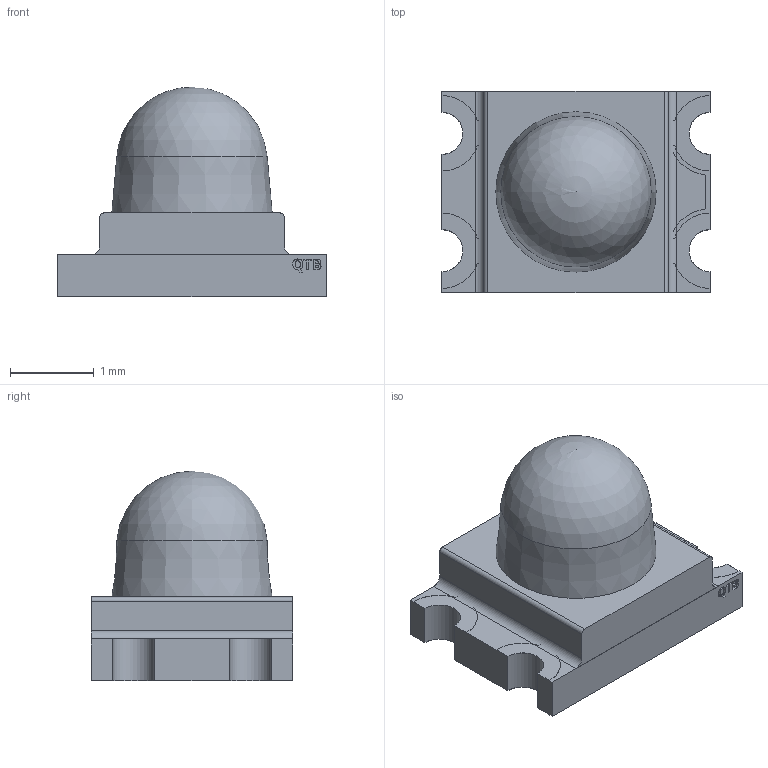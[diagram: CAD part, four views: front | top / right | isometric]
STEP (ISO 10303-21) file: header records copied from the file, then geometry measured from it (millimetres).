
FILE_DESCRIPTION(/* description */ (''),/* implementation_level */ '2;1');
FILE_NAME(/* name */ '5fab0ebd4170af0f33aaea00',/* time_stamp */ '2020-11-10T22:05:50+00:00',/* author */ (''),/* organization */ (''),/* preprocessor_version */ 'ST-DEVELOPER v16.7',/* originating_system */ $,/* authorisation */ $);
FILE_SCHEMA (('AUTOMOTIVE_DESIGN {1 0 10303 214 3 1 1}'));
Length unit declared in the file: metre
Products named in the file (8): QBLP653 (Bi-Tri Color); Part 5; Part 4; Part 1; Part 7; Part 2; Part 6; Part 3
Assembly tree (7 placements, depth 2):
  QBLP653 (Bi-Tri Color)
    Part 5
    Part 4
    Part 1
    Part 7
    Part 2
    Part 6
    Part 3
Bounding box: 3.2 x 2.4 x 2.5 mm (x, y, z)
Volume: 9.4 mm3; surface area: 50.9 mm2
Topology: 7 solids, 7 shells, 198 faces, 531 edges, 354 vertices
Faces by surface type: plane 131, cylinder 36, bspline 29, sphere 1, cone 1
Entity records: 6425 total; most frequent: CARTESIAN_POINT 1404, ORIENTED_EDGE 1054, DIRECTION 897, EDGE_CURVE 527, LINE 395, VECTOR 395, VERTEX_POINT 352, AXIS2_PLACEMENT_3D 251
